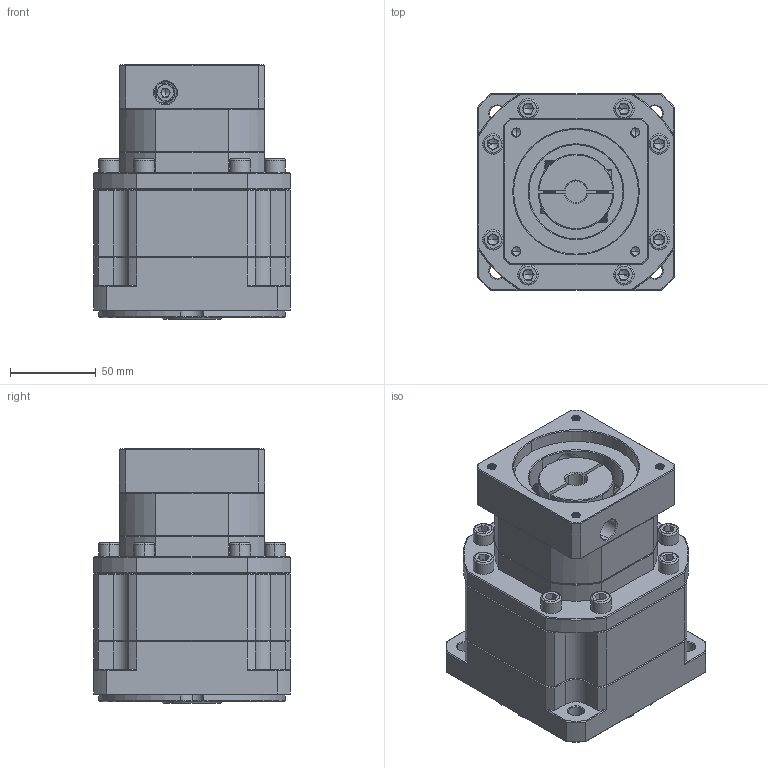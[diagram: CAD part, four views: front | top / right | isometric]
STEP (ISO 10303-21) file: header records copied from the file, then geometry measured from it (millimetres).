
FILE_DESCRIPTION (( 'STEP AP214' ), '1' );
FILE_NAME ('ZB115A-K25-L2-12.7-73-69.5X69.5-M6.step', '2023-03-03T09:57:16', ( '' ), ( 'Microsoft' ), 'SwSTEP 2.0', 'SolidWorks 2016', '' );
FILE_SCHEMA (( 'AUTOMOTIVE_DESIGN' ));
Length unit declared in the file: millimetre
Products named in the file (1): ZB115A-K25-L2-12.7-73-69.5X69.5-M6
Bounding box: 115 x 115 x 149 mm (x, y, z)
Volume: 1314160.6 mm3; surface area: 131481 mm2
Topology: 5 solids, 6 shells, 2078 faces, 5361 edges, 3380 vertices
Faces by surface type: plane 999, cylinder 393, cone 351, bspline 320, torus 15
Entity records: 106917 total; most frequent: CARTESIAN_POINT 36144, ORIENTED_EDGE 10650, DIRECTION 8789, EDGE_CURVE 5325, VERTEX_POINT 3380, LINE 3367, VECTOR 3367, AXIS2_PLACEMENT_3D 2711
